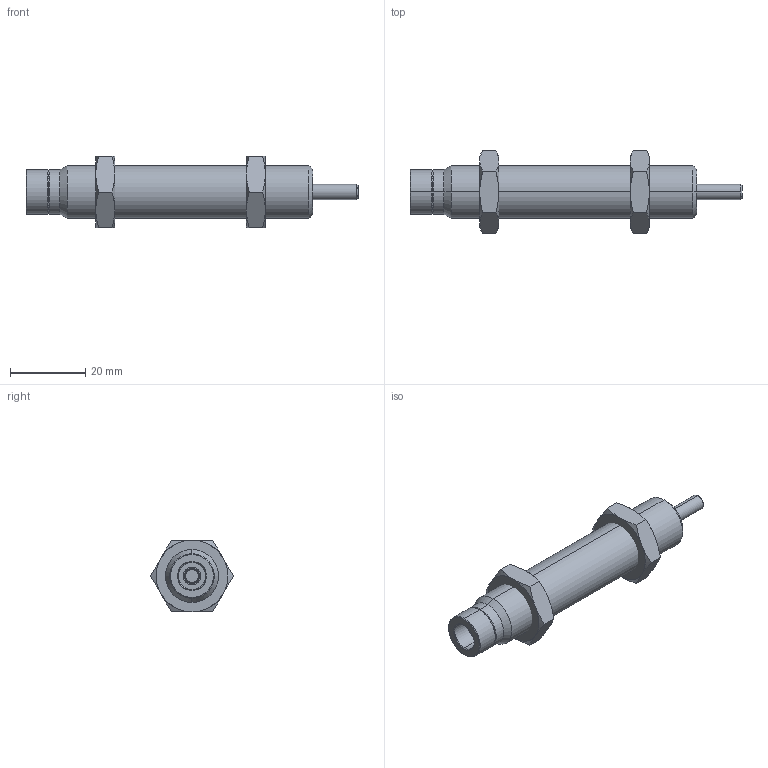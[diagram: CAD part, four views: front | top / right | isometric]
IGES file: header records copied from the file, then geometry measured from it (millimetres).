
Start section: SolidWorks IGES file using analytic representation for surfaces
Global section: file name: D:\PRT跡宒\AC\AC1412-N.IGS,1; native system: 5HSolidWorks 2013; preprocessor: SolidWorks 2013; author: Administrator; date: 160406.151722; units: inch
Bounding box: 88 x 21.94 x 19 mm (x, y, z)
Surface area: 5731.9 mm2 (no closed solid volume)
Topology: 0 solids, 0 shells, 85 faces, 1312 edges, 1312 vertices
Faces by surface type: revolution 62, bspline 23
